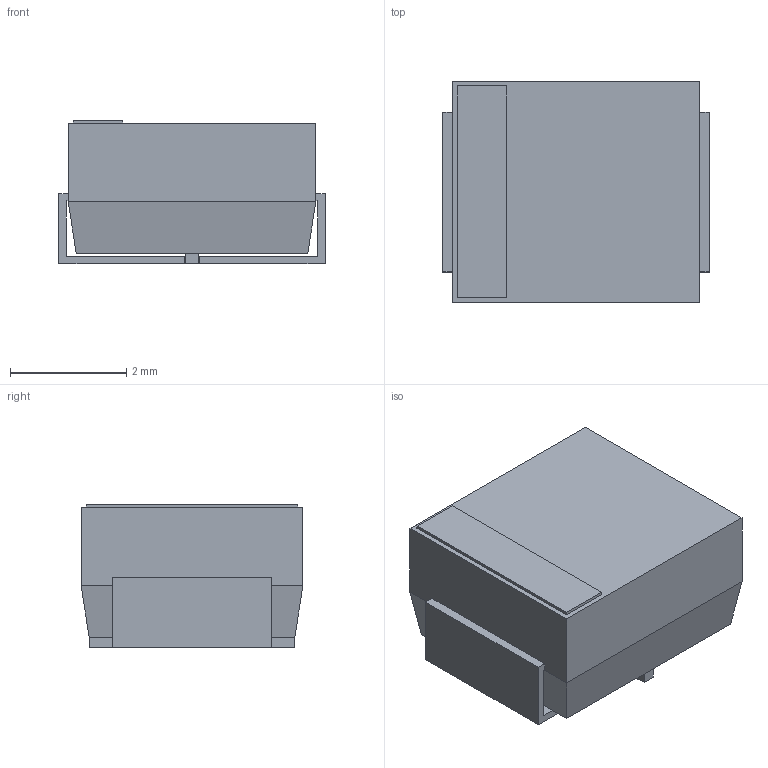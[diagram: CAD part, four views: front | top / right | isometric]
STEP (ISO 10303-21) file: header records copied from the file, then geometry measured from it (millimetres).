
FILE_DESCRIPTION(('STEP AP214'),'1');
FILE_NAME('SMB_ONS','2026-02-28T08:26:15',(''),(''),'','','');
FILE_SCHEMA(('AUTOMOTIVE_DESIGN'));
Length unit declared in the file: millimetre
Products named in the file (1): product
Bounding box: 4.57 x 3.81 x 2.46 mm (x, y, z)
Volume: 37.8 mm3; surface area: 112.9 mm2
Topology: 4 solids, 4 shells, 42 faces, 94 edges, 60 vertices
Faces by surface type: plane 42
Entity records: 1244 total; most frequent: ORIENTED_EDGE 188, DIRECTION 180, CARTESIAN_POINT 103, EDGE_CURVE 94, LINE 94, VECTOR 94, VERTEX_POINT 60, AXIS2_PLACEMENT_3D 43
